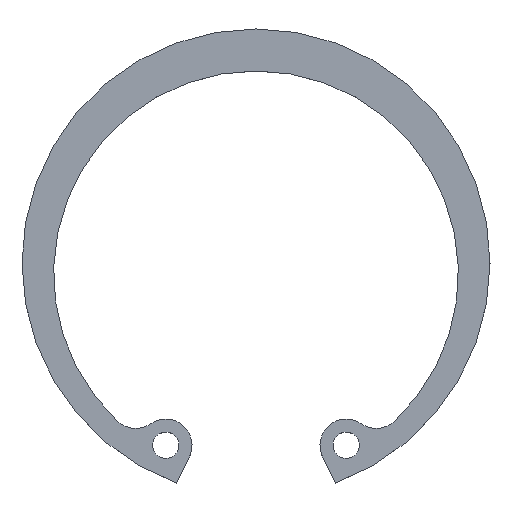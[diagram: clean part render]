
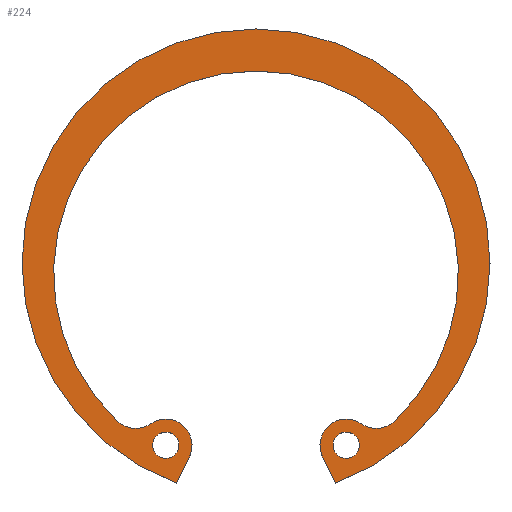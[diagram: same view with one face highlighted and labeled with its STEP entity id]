
A CAD part, top view. The second image highlights one B-rep face of the part: STEP entity #224.
In plain terms, the highlighted planar face has unit normal (0, 0, 1).
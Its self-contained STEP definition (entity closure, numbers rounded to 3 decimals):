
#17=FACE_BOUND('',#49,.T.);
#18=FACE_BOUND('',#50,.T.);
#22=PLANE('',#275);
#34=FACE_OUTER_BOUND('',#48,.T.);
#48=EDGE_LOOP('',(#195,#196,#197,#198,#199,#200,#201,#202));
#49=EDGE_LOOP('',(#203));
#50=EDGE_LOOP('',(#204));
#57=LINE('',#384,#71);
#61=LINE('',#396,#75);
#71=VECTOR('',#316,10.);
#75=VECTOR('',#328,10.);
#80=CIRCLE('',#250,1.25);
#82=CIRCLE('',#253,1.25);
#83=CIRCLE('',#255,19.25);
#85=CIRCLE('',#258,2.5);
#87=CIRCLE('',#261,2.5);
#89=CIRCLE('',#265,22.25);
#91=CIRCLE('',#269,2.5);
#93=CIRCLE('',#272,2.5);
#96=VERTEX_POINT('',#352);
#98=VERTEX_POINT('',#358);
#99=VERTEX_POINT('',#362);
#100=VERTEX_POINT('',#363);
#103=VERTEX_POINT('',#371);
#105=VERTEX_POINT('',#377);
#107=VERTEX_POINT('',#383);
#109=VERTEX_POINT('',#389);
#111=VERTEX_POINT('',#395);
#113=VERTEX_POINT('',#401);
#117=EDGE_CURVE('',#96,#96,#80,.T.);
#120=EDGE_CURVE('',#98,#98,#82,.T.);
#121=EDGE_CURVE('',#99,#100,#83,.T.);
#125=EDGE_CURVE('',#100,#103,#85,.T.);
#128=EDGE_CURVE('',#103,#105,#87,.T.);
#131=EDGE_CURVE('',#105,#107,#57,.T.);
#134=EDGE_CURVE('',#107,#109,#89,.T.);
#137=EDGE_CURVE('',#109,#111,#61,.T.);
#140=EDGE_CURVE('',#111,#113,#91,.T.);
#143=EDGE_CURVE('',#113,#99,#93,.T.);
#195=ORIENTED_EDGE('',*,*,#121,.F.);
#196=ORIENTED_EDGE('',*,*,#143,.F.);
#197=ORIENTED_EDGE('',*,*,#140,.F.);
#198=ORIENTED_EDGE('',*,*,#137,.F.);
#199=ORIENTED_EDGE('',*,*,#134,.F.);
#200=ORIENTED_EDGE('',*,*,#131,.F.);
#201=ORIENTED_EDGE('',*,*,#128,.F.);
#202=ORIENTED_EDGE('',*,*,#125,.F.);
#203=ORIENTED_EDGE('',*,*,#117,.T.);
#204=ORIENTED_EDGE('',*,*,#120,.T.);
#224=ADVANCED_FACE('',(#34,#17,#18),#22,.T.);
#250=AXIS2_PLACEMENT_3D('',#354,#283,#284);
#253=AXIS2_PLACEMENT_3D('',#360,#290,#291);
#255=AXIS2_PLACEMENT_3D('',#364,#294,#295);
#258=AXIS2_PLACEMENT_3D('',#372,#302,#303);
#261=AXIS2_PLACEMENT_3D('',#378,#309,#310);
#265=AXIS2_PLACEMENT_3D('',#390,#321,#322);
#269=AXIS2_PLACEMENT_3D('',#402,#333,#334);
#272=AXIS2_PLACEMENT_3D('',#407,#340,#341);
#275=AXIS2_PLACEMENT_3D('',#410,#346,#347);
#283=DIRECTION('center_axis',(0.,0.,-1.));
#284=DIRECTION('ref_axis',(-1.,0.,0.));
#290=DIRECTION('center_axis',(0.,0.,-1.));
#291=DIRECTION('ref_axis',(-1.,0.,0.));
#294=DIRECTION('center_axis',(0.,0.,1.));
#295=DIRECTION('ref_axis',(-0.683,0.731,0.));
#302=DIRECTION('center_axis',(0.,0.,1.));
#303=DIRECTION('ref_axis',(0.683,0.731,0.));
#309=DIRECTION('center_axis',(0.,0.,-1.));
#310=DIRECTION('ref_axis',(0.896,-0.444,0.));
#316=DIRECTION('',(-0.444,-0.896,0.));
#321=DIRECTION('center_axis',(0.,0.,-1.));
#322=DIRECTION('ref_axis',(0.34,-0.94,0.));
#328=DIRECTION('',(-0.444,0.896,0.));
#333=DIRECTION('center_axis',(0.,0.,-1.));
#334=DIRECTION('ref_axis',(0.571,0.821,0.));
#340=DIRECTION('center_axis',(0.,0.,1.));
#341=DIRECTION('ref_axis',(0.571,0.821,0.));
#346=DIRECTION('center_axis',(0.,0.,1.));
#347=DIRECTION('ref_axis',(1.,0.,0.));
#352=CARTESIAN_POINT('',(9.832,-38.343,1.8));
#354=CARTESIAN_POINT('Origin',(8.582,-38.343,1.8));
#358=CARTESIAN_POINT('',(-7.332,-38.343,1.8));
#360=CARTESIAN_POINT('Origin',(-8.582,-38.343,1.8));
#362=CARTESIAN_POINT('',(13.144,-36.064,1.8));
#363=CARTESIAN_POINT('',(-13.144,-36.064,1.8));
#364=CARTESIAN_POINT('Origin',(0.,-22.,1.8));
#371=CARTESIAN_POINT('',(-10.009,-36.29,1.8));
#372=CARTESIAN_POINT('Origin',(-11.437,-34.238,1.8));
#377=CARTESIAN_POINT('',(-6.341,-39.452,1.8));
#378=CARTESIAN_POINT('Origin',(-8.582,-38.343,1.8));
#383=CARTESIAN_POINT('',(-7.565,-41.924,1.8));
#384=CARTESIAN_POINT('',(-7.565,-41.924,1.8));
#389=CARTESIAN_POINT('',(7.565,-41.924,1.8));
#390=CARTESIAN_POINT('Origin',(0.,-21.,1.8));
#395=CARTESIAN_POINT('',(6.341,-39.452,1.8));
#396=CARTESIAN_POINT('',(6.341,-39.452,1.8));
#401=CARTESIAN_POINT('',(10.009,-36.29,1.8));
#402=CARTESIAN_POINT('Origin',(8.582,-38.343,1.8));
#407=CARTESIAN_POINT('Origin',(11.437,-34.238,1.8));
#410=CARTESIAN_POINT('Origin',(-0.063,-20.884,1.8));
